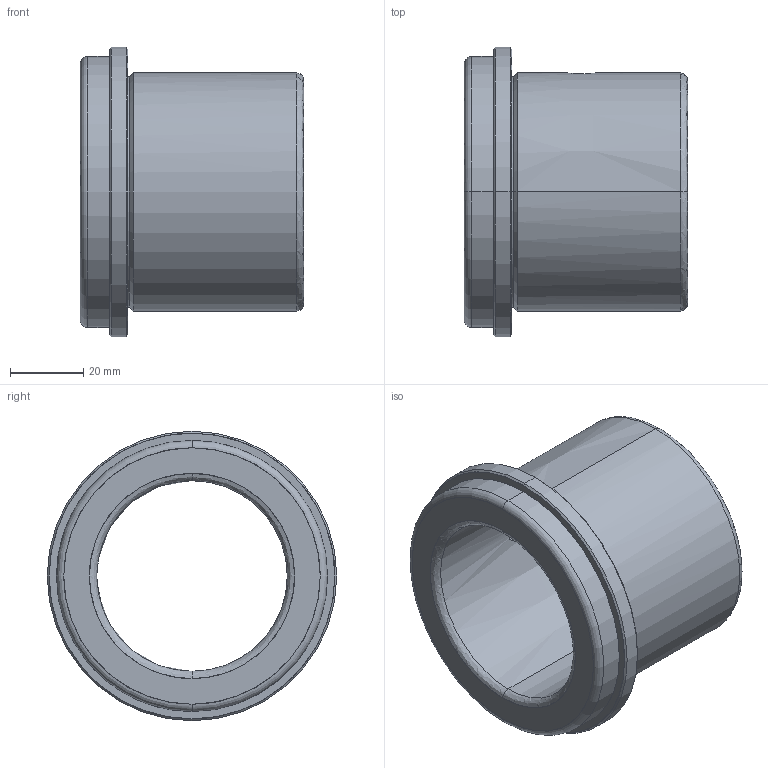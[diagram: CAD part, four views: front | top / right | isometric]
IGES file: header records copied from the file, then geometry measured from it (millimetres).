
Start section: START RECORD GO HERE.
Global section: file name: FAMO-SF1-A52 x 61.igs; native system: DASSAULT SYSTEMES CATIA V5 R20 - www.3ds.com; preprocessor: CATIA Version 5 Release 20 ; author: Utente; organization: NB04-ASUS; date: 20210106.171819; units: millimetre
Bounding box: 61 x 79 x 79 mm (x, y, z)
Surface area: 28249.1 mm2 (no closed solid volume)
Topology: 0 solids, 0 shells, 33 faces, 228 edges, 228 vertices
Faces by surface type: revolution 28, plane 5
